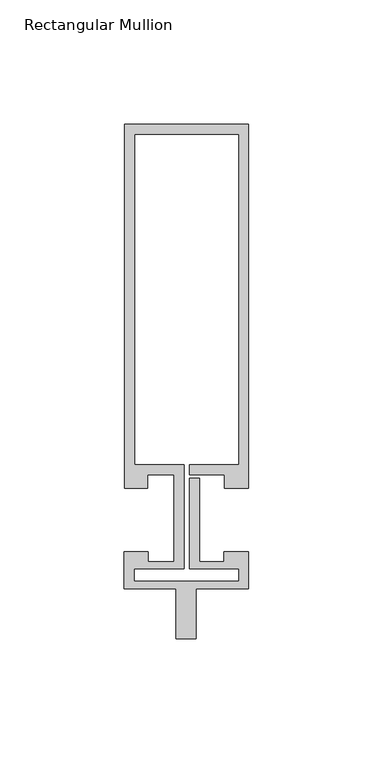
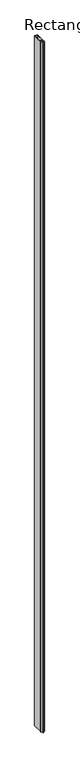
"""IFC4 building model written with IfcOpenShell, lengths in millimetres: member geometry, Rectangular Mullion : Reynaers_CW-50_Transom-Transom_146.5mm_Facecap-06A."""

from ifc_helpers import new_model, si_unit, frame, origin, place, context, project, spatial, polyline, outline, extrude, source, transform, mapped, element, save


def rectangular_mullion_7b71fafa(model_context):
    return source(origin(), model_context, "Body", "SweptSolid", [
        extrude(outline(polyline([(25.1995941, 12.7331291), (15.499, 12.7331291), (15.499, 18.1331291), (1.2995941, 18.1331291), (1.2995941, 22.1331291), (21.1995941, 22.1331291), (21.1995941, 155.2331291), (-20.8004059, 155.2331291), (-20.8004059, 22.1331291), (-0.9004059, 22.1331291), (-0.9004059, -19.7331291), (-20.994845, -19.7331291), (-20.994845, -24.6522629), (21.1995941, -24.6522629), (21.1995941, -19.7331291), (1.2995941, -19.7331291), (1.2995941, 16.7615089), (5.2995941, 16.7615089), (5.2995941, -16.7331291), (15.2996495, -16.7331291), (15.2996495, -12.7331291), (25.1995941, -12.7331291), (25.1995941, -27.7331291), (4.004855, -27.7331291), (4.004855, -47.7331291), (-3.995145, -47.7331291), (-3.995145, -27.7331291), (-24.994845, -27.7331291), (-24.994845, -12.7331291), (-15.2996495, -12.7331291), (-15.2996495, -16.7331291), (-4.9004059, -16.7331291), (-4.9004059, 18.1331291), (-15.499, 18.1331291), (-15.499, 12.7331291), (-24.8004059, 12.7331291), (-24.8004059, 159.2331291), (25.1995941, 159.2331291), (25.1995941, 12.7331291)])), frame((0.0, 0.0, -12000.0), z_axis=(0.0, 0.0, 1.0), x_axis=(1.0, 0.0, 0.0)), (0.0, 0.0, 1.0), 12000.0),
    ])


if __name__ == "__main__":
    model = new_model("IFC4")
    model_context = context("Model", 3, world=origin())
    ifc_project = project(units=[si_unit("LENGTHUNIT", "METRE", prefix="MILLI")], contexts=[model_context])
    site = spatial("IfcSite", under=ifc_project)
    building = spatial("IfcBuilding", under=site)
    placement = place(None, origin())
    rectangular_mullion_shape = rectangular_mullion_7b71fafa(model_context)
    element("IfcMember", 1, ObjectType="Rectangular Mullion : Reynaers_CW-50_Transom-Transom_146.5mm_Facecap-06A", at=placement, inside=building, context=model_context, shape_type="MappedRepresentation", body=[
        mapped(rectangular_mullion_shape, transform((0.0, 0.0, 0.0), x_axis=(1.0, 0.0, 0.0), y_axis=(0.0, 1.0, 0.0), z_axis=(0.0, 0.0, 1.0))),
    ])
    save(model, "model.ifc")
